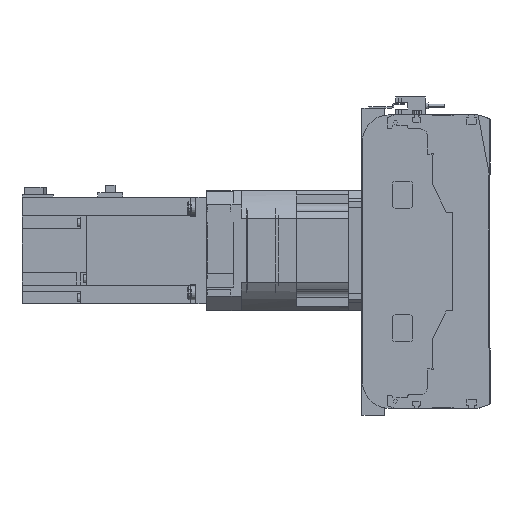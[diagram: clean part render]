
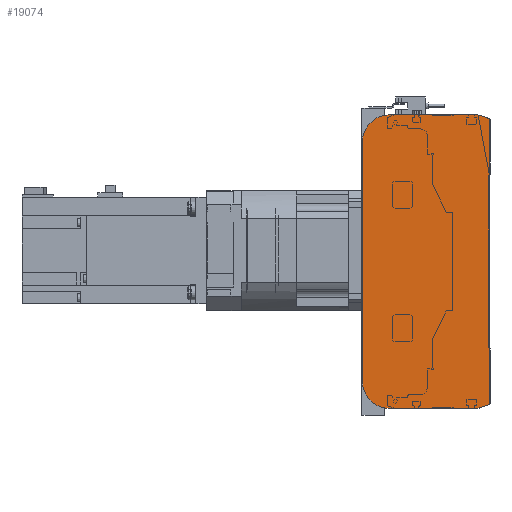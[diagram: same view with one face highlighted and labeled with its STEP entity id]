
A CAD part, left-side view. The second image highlights one B-rep face of the part: STEP entity #19074.
In plain terms, the highlighted planar face has unit normal (-1, 0, 0).
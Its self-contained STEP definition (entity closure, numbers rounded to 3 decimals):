
#1092=CIRCLE('',#20782,20.);
#1093=CIRCLE('',#20785,20.);
#4722=ORIENTED_EDGE('',*,*,#8264,.F.);
#4723=ORIENTED_EDGE('',*,*,#8306,.F.);
#4724=ORIENTED_EDGE('',*,*,#8304,.F.);
#4725=ORIENTED_EDGE('',*,*,#8302,.F.);
#4726=ORIENTED_EDGE('',*,*,#8291,.F.);
#4727=ORIENTED_EDGE('',*,*,#8282,.F.);
#4728=ORIENTED_EDGE('',*,*,#8278,.F.);
#4729=ORIENTED_EDGE('',*,*,#8275,.F.);
#8264=EDGE_CURVE('',#10379,#10380,#12091,.T.);
#8275=EDGE_CURVE('',#10380,#10387,#12102,.T.);
#8278=EDGE_CURVE('',#10387,#10389,#12105,.T.);
#8282=EDGE_CURVE('',#10389,#10390,#12109,.T.);
#8291=EDGE_CURVE('',#10390,#10396,#12118,.T.);
#8302=EDGE_CURVE('',#10396,#10403,#1092,.T.);
#8304=EDGE_CURVE('',#10403,#10404,#12130,.T.);
#8306=EDGE_CURVE('',#10404,#10379,#1093,.T.);
#10379=VERTEX_POINT('',#31580);
#10380=VERTEX_POINT('',#31582);
#10387=VERTEX_POINT('',#31601);
#10389=VERTEX_POINT('',#31607);
#10390=VERTEX_POINT('',#31613);
#10396=VERTEX_POINT('',#31629);
#10403=VERTEX_POINT('',#31648);
#10404=VERTEX_POINT('',#31652);
#12091=LINE('',#31581,#13678);
#12102=LINE('',#31600,#13689);
#12105=LINE('',#31606,#13692);
#12109=LINE('',#31612,#13696);
#12118=LINE('',#31628,#13705);
#12130=LINE('',#31651,#13717);
#13678=VECTOR('',#25153,1000.);
#13689=VECTOR('',#25166,1000.);
#13692=VECTOR('',#25171,1000.);
#13696=VECTOR('',#25177,1000.);
#13705=VECTOR('',#25188,1000.);
#13717=VECTOR('',#25206,1000.);
#15102=EDGE_LOOP('',(#4722,#4723,#4724,#4725,#4726,#4727,#4728,#4729));
#16914=FACE_BOUND('',#15102,.T.);
#18165=PLANE('',#20786);
#19074=ADVANCED_FACE('',(#16914),#18165,.F.);
#20782=AXIS2_PLACEMENT_3D('',#31647,#25201,#25202);
#20785=AXIS2_PLACEMENT_3D('',#31655,#25210,#25211);
#20786=AXIS2_PLACEMENT_3D('',#31656,#25212,#25213);
#25153=DIRECTION('',(0.,-1.,0.));
#25166=DIRECTION('',(0.,-0.945,-0.328));
#25171=DIRECTION('',(0.,0.,-1.));
#25177=DIRECTION('',(0.,0.945,-0.328));
#25188=DIRECTION('',(0.,1.,0.));
#25201=DIRECTION('',(1.,0.,0.));
#25202=DIRECTION('',(0.,0.,-1.));
#25206=DIRECTION('',(0.,0.,1.));
#25210=DIRECTION('',(1.,0.,0.));
#25211=DIRECTION('',(0.,0.,-1.));
#25212=DIRECTION('',(1.,0.,0.));
#25213=DIRECTION('',(0.,0.,-1.));
#31580=CARTESIAN_POINT('',(0.,75.5,110.));
#31581=CARTESIAN_POINT('',(0.,75.5,110.));
#31582=CARTESIAN_POINT('',(0.,9.,110.));
#31600=CARTESIAN_POINT('',(0.,9.,110.));
#31601=CARTESIAN_POINT('',(0.,0.5,107.05));
#31606=CARTESIAN_POINT('',(0.,0.5,107.05));
#31607=CARTESIAN_POINT('',(0.,0.5,-107.05));
#31612=CARTESIAN_POINT('',(0.,0.5,-107.05));
#31613=CARTESIAN_POINT('',(0.,9.,-110.));
#31628=CARTESIAN_POINT('',(0.,9.,-110.));
#31629=CARTESIAN_POINT('',(0.,75.5,-110.));
#31647=CARTESIAN_POINT('',(0.,75.5,-90.));
#31648=CARTESIAN_POINT('',(0.,95.5,-90.));
#31651=CARTESIAN_POINT('',(0.,95.5,-90.));
#31652=CARTESIAN_POINT('',(0.,95.5,90.));
#31655=CARTESIAN_POINT('',(0.,75.5,90.));
#31656=CARTESIAN_POINT('',(0.,75.5,-90.));
